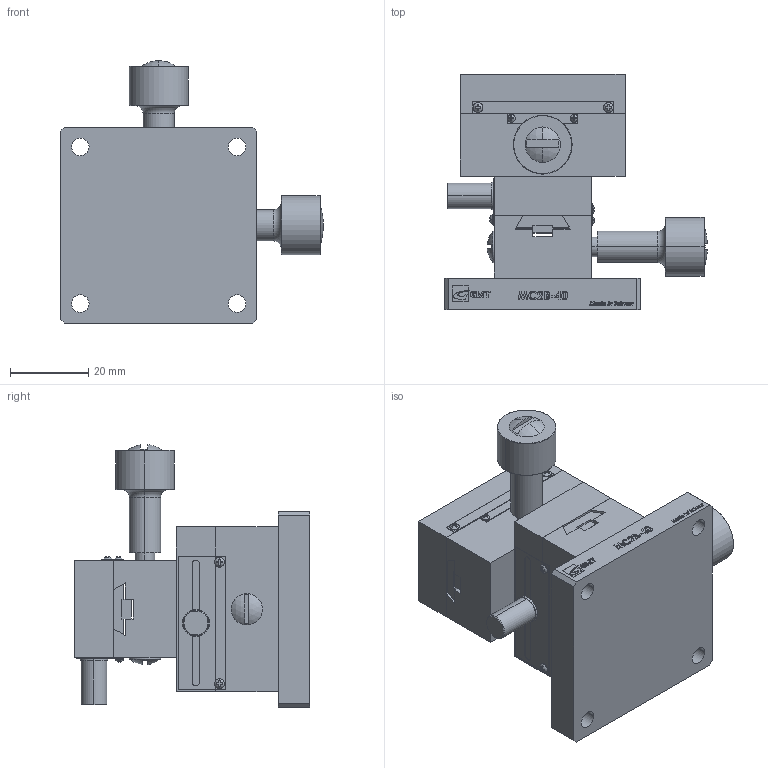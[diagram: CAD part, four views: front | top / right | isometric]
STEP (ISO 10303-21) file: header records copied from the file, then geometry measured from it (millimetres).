
FILE_DESCRIPTION (( 'STEP AP203' ), '1' );
FILE_NAME ('MC2B-40.STEP', '2008-07-19T09:01:16', ( 'user' ), ( '' ), 'SwSTEP 2.0', 'SolidWorks 2007', '' );
FILE_SCHEMA (( 'CONFIG_CONTROL_DESIGN' ));
Length unit declared in the file: millimetre
Products named in the file (1): MC2B-40
Bounding box: 66.98 x 60 x 66.96 mm (x, y, z)
Volume: 78068.3 mm3; surface area: 30405.4 mm2
Topology: 17 solids, 17 shells, 801 faces, 2087 edges, 1358 vertices
Faces by surface type: plane 517, cylinder 132, bspline 100, cone 28, sphere 20, torus 4
Entity records: 30844 total; most frequent: CARTESIAN_POINT 11619, ORIENTED_EDGE 4142, DIRECTION 3613, EDGE_CURVE 2071, VECTOR 1389, LINE 1389, VERTEX_POINT 1358, AXIS2_PLACEMENT_3D 1112
